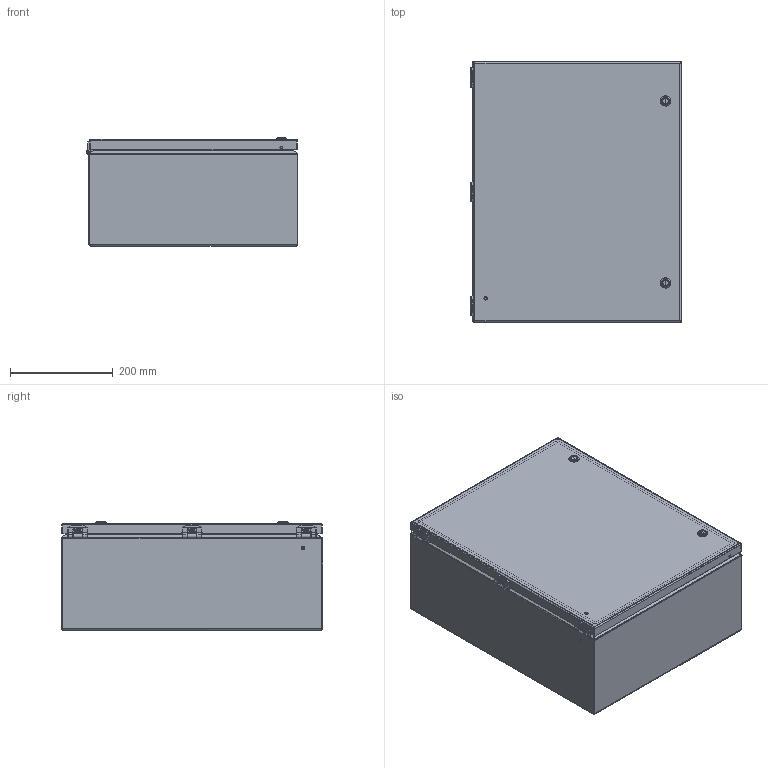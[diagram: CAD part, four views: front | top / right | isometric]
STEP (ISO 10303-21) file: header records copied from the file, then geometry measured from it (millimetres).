
FILE_DESCRIPTION((''),'2;1');
FILE_NAME('MODEL-058_ASM','2022-05-17T10:43:17',('johnh'),('SAGINAW CONTROL & ENGINEERING'),'CREO PARAMETRIC BY PTC INC, 2021284','CREO PARAMETRIC BY PTC INC, 2021284','');
FILE_SCHEMA(('AUTOMOTIVE_DESIGN { 1 0 10303 214 1 1 1 1 }'));
Length unit declared in the file: inch
Products named in the file (25): MODEL-058-BDY; MODEL-058-DR; 112643-BOX-LEAF; 112643-BOX-LEAF-STUD; 112643-BOX_ASM; 112643-DOOR-LEAF; 112643-DOOR-LEAF-STUD; 112643-DOOR_ASM; 112643-PIN; 112643_ASM; 113152; 100063; 112987_SHAFT; 112987_INSERT; 112984; 112987_SCREW; 112987_NUT; 112987_ASM; 100009; MODEL-058-GSKT; 120704; CH-ELJ_SUBPANEL; 102479; CH-ELJ_SUBPANEL-SUBASSEMBLY_ASM; MODEL-058_ASM
Assembly tree (47 placements, depth 4):
  MODEL-058_ASM
    MODEL-058-BDY
    MODEL-058-DR
    112643_ASM  x3
      112643-BOX_ASM
        112643-BOX-LEAF
        112643-BOX-LEAF-STUD
      112643-DOOR_ASM
        112643-DOOR-LEAF
        112643-DOOR-LEAF-STUD
      112643-PIN
    113152  x6
    100063  x2
    112987_ASM  x2
      112987_SHAFT
      112987_INSERT
      112984
      112987_SCREW
      112987_NUT
    100009  x8
    MODEL-058-GSKT
    120704
    CH-ELJ_SUBPANEL-SUBASSEMBLY_ASM
      CH-ELJ_SUBPANEL
      102479  x8
Bounding box: 412 x 508 x 210.71 mm (x, y, z)
Volume: 1694526.5 mm3; surface area: 2088424 mm2
Topology: 55 solids, 58 shells, 4501 faces, 11480 edges, 7006 vertices
Faces by surface type: plane 1538, cylinder 1284, bspline 1256, cone 197, torus 186, sphere 40
Entity records: 103022 total; most frequent: CARTESIAN_POINT 54615, ORIENTED_EDGE 7206, DIRECTION 6228, PRESENTATION_STYLE_ASSIGNMENT 3772, STYLED_ITEM 3772, EDGE_CURVE 3603, CURVE_STYLE 3513, AXIS2_PLACEMENT_3D 2312
